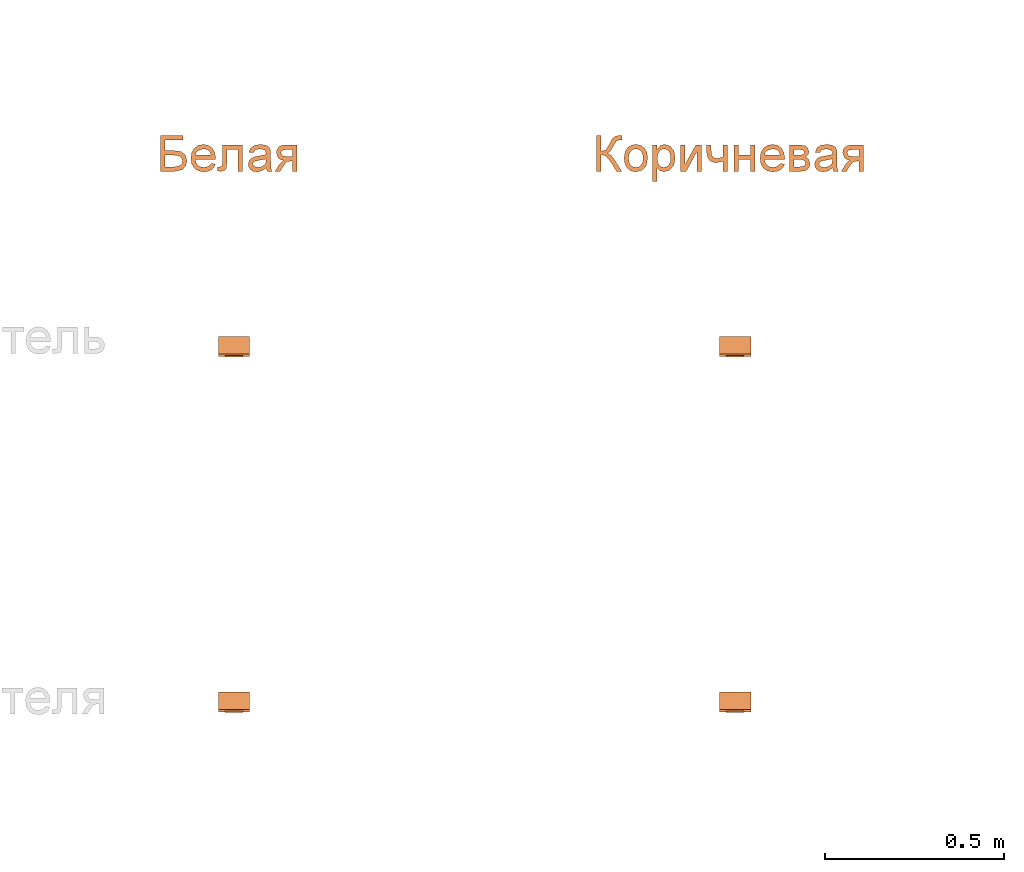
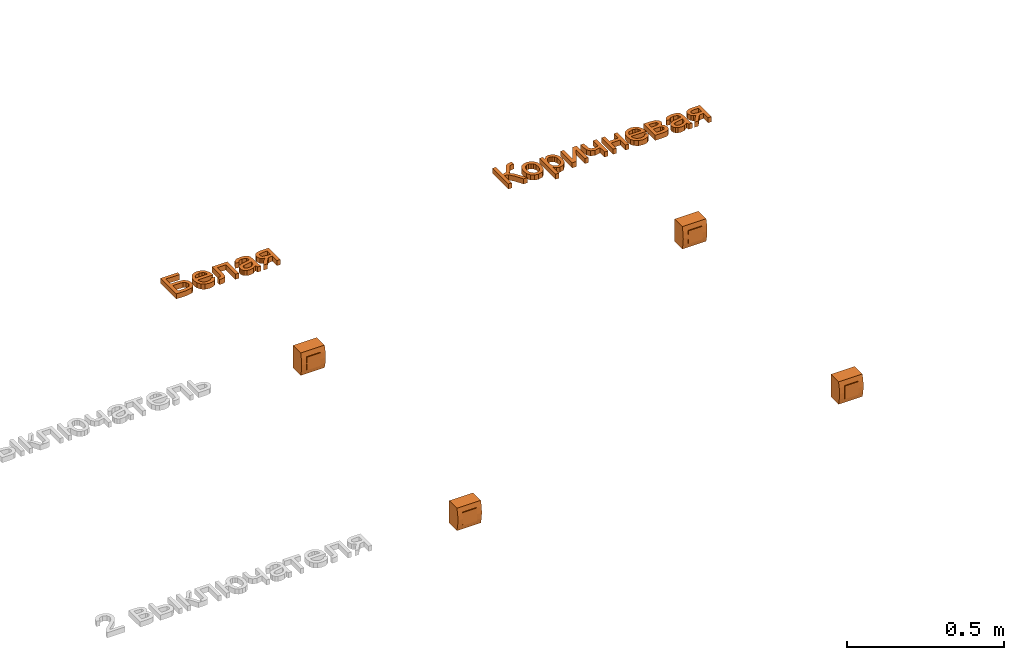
# One storey, part 63 of 87: 6 proxies.
"""IFC2X3 building model written with IfcOpenShell, lengths in millimetres."""

from ifc_helpers import new_model, entity, si_unit, converted_unit, derived_unit, direction, frame, frame_2d, origin, place, context, subcontext, project, spatial, polyline, circle_curve, parameter, trimmed, segment, composite_curve, rectangle, outline, extrude, source, transform, mapped, material, type_object, type_shapes, element, save


model = new_model("IFC2X3")

# Units and contexts
model_context = context("Model", 3, precision=0.01, world=origin(), true_north=direction((6.12303176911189e-17, 1.0)))
body_context = subcontext(model_context, "Body", "Model", "MODEL_VIEW")
ifc_project = project(units=[si_unit("LENGTHUNIT", "METRE", prefix="MILLI"), si_unit("AREAUNIT", "SQUARE_METRE"), si_unit("VOLUMEUNIT", "CUBIC_METRE"), converted_unit("PLANEANGLEUNIT", "DEGREE", entity("IfcRatioMeasure", 0.0174532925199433), si_unit("PLANEANGLEUNIT", "RADIAN"), dimensions=[0, 0, 0, 0, 0, 0, 0]), si_unit("MASSUNIT", "GRAM", prefix="KILO"), derived_unit("MASSDENSITYUNIT", [(si_unit("MASSUNIT", "GRAM", prefix="KILO"), 1), (si_unit("LENGTHUNIT", "METRE"), -3)]), si_unit("TIMEUNIT", "SECOND"), si_unit("FREQUENCYUNIT", "HERTZ"), si_unit("THERMODYNAMICTEMPERATUREUNIT", "DEGREE_CELSIUS"), derived_unit("THERMALTRANSMITTANCEUNIT", [(si_unit("MASSUNIT", "GRAM", prefix="KILO"), 1), (si_unit("THERMODYNAMICTEMPERATUREUNIT", "KELVIN"), -1), (si_unit("TIMEUNIT", "SECOND"), -3)]), derived_unit("VOLUMETRICFLOWRATEUNIT", [(si_unit("LENGTHUNIT", "METRE"), 3), (si_unit("TIMEUNIT", "SECOND"), -1)]), si_unit("ELECTRICCURRENTUNIT", "AMPERE"), si_unit("ELECTRICVOLTAGEUNIT", "VOLT"), si_unit("POWERUNIT", "WATT"), si_unit("FORCEUNIT", "NEWTON", prefix="KILO"), si_unit("ILLUMINANCEUNIT", "LUX"), si_unit("LUMINOUSFLUXUNIT", "LUMEN"), si_unit("LUMINOUSINTENSITYUNIT", "CANDELA"), derived_unit("USERDEFINED", [(si_unit("MASSUNIT", "GRAM", prefix="KILO"), -1), (si_unit("LENGTHUNIT", "METRE"), -2), (si_unit("TIMEUNIT", "SECOND"), 3), (si_unit("LUMINOUSFLUXUNIT", "LUMEN"), 1)]), derived_unit("LINEARVELOCITYUNIT", [(si_unit("LENGTHUNIT", "METRE"), 1), (si_unit("TIMEUNIT", "SECOND"), -1)]), si_unit("PRESSUREUNIT", "PASCAL"), derived_unit("USERDEFINED", [(si_unit("LENGTHUNIT", "METRE"), -2), (si_unit("MASSUNIT", "GRAM", prefix="KILO"), 1), (si_unit("TIMEUNIT", "SECOND"), -2)])], contexts=[model_context])

# Site, building, storey
site_placement = place(None, origin())
site = spatial("IfcSite", under=ifc_project, at=site_placement, Name="Default", CompositionType="ELEMENT")
building_placement = place(site_placement, origin())
building = spatial("IfcBuilding", under=site, at=building_placement, Name="Наименование здания", CompositionType="ELEMENT")
storey_placement = place(building_placement, origin())
storey = spatial("IfcBuildingStorey", under=building, at=storey_placement, Name="Этаж 01", CompositionType="ELEMENT", Elevation=0.0)

# Proxies
ifc_material_1 = material(Name="DKC_Пластик_Коричневый")
building_element_proxy_type_1 = type_object("IfcBuildingElementProxyType", Name="Коричневая", PredefinedType="NOTDEFINED", material=ifc_material_1)
shared_shape_1 = source(origin(), body_context, "Body", "SweptSolid", [
    extrude(rectangle(XDim=50.4, YDim=7.79362973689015, at=frame_2d((0.0, 4.21884749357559e-15), x_axis=(1.0, 0.0))), frame((0.0, -52.6531851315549, -25.2), z_axis=(0.0, 0.0, 1.0), x_axis=(-1.0, 0.0, 0.0)), (0.0, 0.0, 1.0), 50.4),
    extrude(outline(composite_curve([segment(polyline([(-43.5500000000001, -24.3781851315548), (43.5500000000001, -24.3781851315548)]), True, "CONTINUOUS"), segment(polyline([(43.5500000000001, -24.3781851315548), (43.5499999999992, 24.3781851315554)]), True, "CONTINUOUS"), segment(trimmed(circle_curve(frame_2d((0.0, -117.269759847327), x_axis=(0.0, -1.0)), 148.191574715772), [parameter(162.90982899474)], [parameter(197.09017100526)], True, "PARAMETER"), True, "CONTINUOUS"), segment(polyline([(-43.5500000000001, 24.3781851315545), (-43.5500000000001, -24.3781851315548)]), True, "CONTINUOUS")], self_intersect=False)), frame((-43.85, -24.3781851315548, 0.0), z_axis=(1.0, 0.0, 0.0), x_axis=(0.0, 0.0, 1.0)), (0.0, 0.0, 1.0), 87.7),
])
type_shapes(building_element_proxy_type_1, [shared_shape_1])
proxy_1_placement = place(storey_placement, frame((61127.9064877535, -4692.4294884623, 0.0)))
element("IfcBuildingElementProxy", 1, at=proxy_1_placement, inside=storey, type_object=building_element_proxy_type_1, material=ifc_material_1, Name="КНС_КоробкаВСбореСВыключателями_ILF_DKC:Коричневая", ObjectType="Коричневая", context=body_context, shape_type="MappedRepresentation", body=[
    mapped(shared_shape_1, transform((0.0, 0.0, 0.0), scale=1.0)),
])
ifc_material_2 = material(Name="DKC_Пластик_Белый")
building_element_proxy_type_2 = type_object("IfcBuildingElementProxyType", Name="Белая", PredefinedType="NOTDEFINED", material=ifc_material_2)
shared_shape_2 = source(origin(), body_context, "Body", "SweptSolid", [
    extrude(rectangle(XDim=50.4, YDim=7.79362973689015, at=frame_2d((0.0, 4.21884749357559e-15), x_axis=(1.0, 0.0))), frame((0.0, -52.6531851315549, -25.2), z_axis=(0.0, 0.0, 1.0), x_axis=(-1.0, 0.0, 0.0)), (0.0, 0.0, 1.0), 50.4),
    extrude(outline(composite_curve([segment(polyline([(-43.5500000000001, -24.3781851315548), (43.5500000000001, -24.3781851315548)]), True, "CONTINUOUS"), segment(polyline([(43.5500000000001, -24.3781851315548), (43.5499999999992, 24.3781851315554)]), True, "CONTINUOUS"), segment(trimmed(circle_curve(frame_2d((0.0, -117.269759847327), x_axis=(0.0, -1.0)), 148.191574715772), [parameter(162.90982899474)], [parameter(197.09017100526)], True, "PARAMETER"), True, "CONTINUOUS"), segment(polyline([(-43.5500000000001, 24.3781851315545), (-43.5500000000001, -24.3781851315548)]), True, "CONTINUOUS")], self_intersect=False)), frame((-43.85, -24.3781851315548, 0.0), z_axis=(1.0, 0.0, 0.0), x_axis=(0.0, 0.0, 1.0)), (0.0, 0.0, 1.0), 87.7),
])
type_shapes(building_element_proxy_type_2, [shared_shape_2])
proxy_2_placement = place(storey_placement, frame((59727.9064877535, -4692.42948846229, 0.0)))
element("IfcBuildingElementProxy", 2, at=proxy_2_placement, inside=storey, type_object=building_element_proxy_type_2, material=ifc_material_2, Name="КНС_КоробкаВСбореСВыключателями_ILF_DKC:Белая", ObjectType="Белая", context=body_context, shape_type="MappedRepresentation", body=[
    mapped(shared_shape_2, transform((0.0, 0.0, 0.0), scale=1.0)),
])
building_element_proxy_type_3 = type_object("IfcBuildingElementProxyType", Name="Коричневая", PredefinedType="NOTDEFINED", material=ifc_material_1)
shared_shape_3 = source(origin(), body_context, "Body", "SweptSolid", [
    extrude(rectangle(XDim=50.4, YDim=7.79362973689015, at=frame_2d((0.0, 4.21884749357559e-15), x_axis=(1.0, 0.0))), frame((0.0, -52.6531851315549, -25.2), z_axis=(0.0, 0.0, 1.0), x_axis=(-1.0, 0.0, 0.0)), (0.0, 0.0, 1.0), 50.4),
    extrude(outline(composite_curve([segment(polyline([(-43.5500000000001, -24.3781851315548), (43.5500000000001, -24.3781851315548)]), True, "CONTINUOUS"), segment(polyline([(43.5500000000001, -24.3781851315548), (43.5499999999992, 24.3781851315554)]), True, "CONTINUOUS"), segment(trimmed(circle_curve(frame_2d((0.0, -117.269759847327), x_axis=(0.0, -1.0)), 148.191574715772), [parameter(162.90982899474)], [parameter(197.09017100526)], True, "PARAMETER"), True, "CONTINUOUS"), segment(polyline([(-43.5500000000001, 24.3781851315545), (-43.5500000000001, -24.3781851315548)]), True, "CONTINUOUS")], self_intersect=False)), frame((-43.85, -24.3781851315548, 0.0), z_axis=(1.0, 0.0, 0.0), x_axis=(0.0, 0.0, 1.0)), (0.0, 0.0, 1.0), 87.7),
])
type_shapes(building_element_proxy_type_3, [shared_shape_3])
proxy_3_placement = place(storey_placement, frame((61127.9064877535, -3699.50593008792, 0.0)))
element("IfcBuildingElementProxy", 3, at=proxy_3_placement, inside=storey, type_object=building_element_proxy_type_3, material=ifc_material_1, Name="КНС_КоробкаВСбореСВыключателями_ILF_DKC:Коричневая", ObjectType="Коричневая", context=body_context, shape_type="MappedRepresentation", body=[
    mapped(shared_shape_3, transform((0.0, 0.0, 0.0), scale=1.0)),
])
building_element_proxy_type_4 = type_object("IfcBuildingElementProxyType", Name="Белая", PredefinedType="NOTDEFINED", material=ifc_material_2)
shared_shape_4 = source(origin(), body_context, "Body", "SweptSolid", [
    extrude(rectangle(XDim=50.4, YDim=7.79362973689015, at=frame_2d((0.0, 4.21884749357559e-15), x_axis=(1.0, 0.0))), frame((0.0, -52.6531851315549, -25.2), z_axis=(0.0, 0.0, 1.0), x_axis=(-1.0, 0.0, 0.0)), (0.0, 0.0, 1.0), 50.4),
    extrude(outline(composite_curve([segment(polyline([(-43.5500000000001, -24.3781851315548), (43.5500000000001, -24.3781851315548)]), True, "CONTINUOUS"), segment(polyline([(43.5500000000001, -24.3781851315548), (43.5499999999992, 24.3781851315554)]), True, "CONTINUOUS"), segment(trimmed(circle_curve(frame_2d((0.0, -117.269759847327), x_axis=(0.0, -1.0)), 148.191574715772), [parameter(162.90982899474)], [parameter(197.09017100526)], True, "PARAMETER"), True, "CONTINUOUS"), segment(polyline([(-43.5500000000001, 24.3781851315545), (-43.5500000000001, -24.3781851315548)]), True, "CONTINUOUS")], self_intersect=False)), frame((-43.85, -24.3781851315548, 0.0), z_axis=(1.0, 0.0, 0.0), x_axis=(0.0, 0.0, 1.0)), (0.0, 0.0, 1.0), 87.7),
])
type_shapes(building_element_proxy_type_4, [shared_shape_4])
proxy_4_placement = place(storey_placement, frame((59727.9064877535, -3699.50593008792, 0.0)))
element("IfcBuildingElementProxy", 4, at=proxy_4_placement, inside=storey, type_object=building_element_proxy_type_4, material=ifc_material_2, Name="КНС_КоробкаВСбореСВыключателями_ILF_DKC:Белая", ObjectType="Белая", context=body_context, shape_type="MappedRepresentation", body=[
    mapped(shared_shape_4, transform((0.0, 0.0, 0.0), scale=1.0)),
])
proxy_5_placement = place(storey_placement, origin())
element("IfcBuildingElementProxy", 5, at=proxy_5_placement, inside=storey, Name="Текст модели:100 мм Arial", ObjectType="Текст модели:100 мм Arial", context=body_context, shape_type="SweptSolid", body=[
    extrude(outline(polyline([(-50.9950475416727, -42.7620371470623), (49.4612626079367, -42.7620371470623), (49.4612626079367, -4.42873324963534), (45.2428823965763, 17.8649156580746), (34.3658380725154, 27.7118903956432), (20.0552284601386, 31.0105656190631), (3.57411507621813, 26.3752524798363), (-6.06439319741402, 14.0389429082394), (-8.61504169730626, -6.68507615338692), (-8.61504169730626, -30.2049983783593), (-38.4380087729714, -30.2049983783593), (-38.4380087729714, 20.0231566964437), (-50.9950475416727, 20.0231566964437), (-50.9950475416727, -42.7620371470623)]), holes=[polyline([(36.9042238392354, -30.2049983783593), (3.94199707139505, -30.2049983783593), (3.94199707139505, -12.2523570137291), (5.24184678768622, 6.66904027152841), (10.4902965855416, 15.3387926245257), (20.3250085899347, 18.4535268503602), (27.5784152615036, 17.0923634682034), (32.7594200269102, 13.0088733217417), (36.9042238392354, -3.30056179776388), (36.9042238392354, -30.2049983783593)])]), frame((59565.51887875, -3188.36144630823, 0.0), z_axis=(0.0, 0.0, 1.0), x_axis=(0.0, -1.0, 0.0)), (0.0, 0.0, 1.0), 20.0),
    extrude(outline(polyline([(-8.10128238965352, -20.3751729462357), (-15.5352214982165, -30.3140016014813), (-5.78400372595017, -33.5775071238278), (4.12185089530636, -33.3132173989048), (13.877616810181, -29.4480778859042), (23.1785684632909, -21.9090340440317), (31.6380426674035, -9.59237957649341), (34.1620486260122, 3.74135328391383), (30.6040508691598, 17.244220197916), (20.817513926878, 30.0682768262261), (7.27698270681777, 39.7846728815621), (-6.66179525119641, 43.1117813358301), (-19.9642596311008, 40.4221234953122), (-31.5958501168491, 32.0882206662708), (-39.2435519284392, 20.5090048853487), (-41.3106827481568, 7.34319797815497), (-37.437370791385, -6.34962495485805), (-27.2637442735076, -19.5098888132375), (-24.7804584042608, -21.8106804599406), (14.4643272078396, 18.7422646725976), (19.7071986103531, 10.6437992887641), (21.1614672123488, 2.21005051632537), (19.1472085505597, -5.98136753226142), (13.9844981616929, -13.3528407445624), (3.53684605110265, -20.3751729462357), (-8.10128238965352, -20.3751729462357)]), holes=[polyline([(5.44081225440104, 27.4746984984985), (-25.12270613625, -4.10760383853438), (-29.8038819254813, 7.41909510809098), (-27.8851342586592, 15.7498710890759), (-22.5382240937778, 23.3910349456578), (-8.40970331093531, 31.2368652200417), (-1.08072680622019, 30.9147288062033), (5.44081225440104, 27.4746984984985)])]), frame((59643.6009266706, -3207.50015809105, 0.0), z_axis=(0.0, 0.0, -1.0), x_axis=(-0.69542142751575, -0.718602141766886, 0.0)), (0.0, 0.0, -1.0), 20.0),
    extrude(outline(polyline([(-49.368997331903, 12.5447760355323), (-49.368997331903, -43.9618984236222), (24.3300290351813, -43.9618984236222), (24.3300290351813, -31.4048596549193), (-36.8119585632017, -31.4048596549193), (-36.8119585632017, -0.0122627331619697), (-1.61791435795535, -0.0122627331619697), (14.617944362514, 0.833865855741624), (21.4728122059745, 5.48144172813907), (24.4036054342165, 16.4688506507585), (23.7659433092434, 26.6714446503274), (11.8465666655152, 26.6714446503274), (11.8465666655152, 21.0551128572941), (11.074014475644, 15.3774673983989), (8.62146784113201, 13.1088617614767), (-2.32915288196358, 12.5447760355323), (-49.368997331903, 12.5447760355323)])), frame((59707.9609007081, -3213.41910348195, 0.0), z_axis=(0.0, 0.0, -1.0), x_axis=(0.0, -1.0, 0.0)), (0.0, 0.0, -1.0), 20.0),
    extrude(outline(polyline([(32.0508237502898, 7.88266535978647), (41.9780345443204, 7.88266535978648), (45.9489188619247, 19.7953183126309), (35.1414436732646, 20.7608946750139), (14.2438893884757, 27.054591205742), (-0.57712610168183, 31.9949297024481), (-11.1945882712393, 34.8877809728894), (-20.4974705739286, 33.9299602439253), (-28.5323068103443, 27.5470739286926), (-35.4619652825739, 13.8157249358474), (-38.3044049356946, -2.6998964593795), (-34.9462156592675, -15.3493345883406), (-25.0306383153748, -24.3807697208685), (-19.5706723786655, -12.9644773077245), (-25.7868125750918, -4.50695904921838), (-24.0611841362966, 8.30922519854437), (-16.2279943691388, 20.3304570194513), (-6.33956174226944, 20.679460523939), (-3.7104020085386, 19.7255176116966), (-6.50243004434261, -2.3004813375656), (-8.14662433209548, -13.2049019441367), (-7.01817966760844, -22.8490321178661), (-2.17478658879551, -31.1204151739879), (6.48825595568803, -36.5416029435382), (15.0010331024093, -37.7020395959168), (22.949587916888, -35.3200906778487), (29.6378522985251, -29.3899394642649), (34.3697581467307, -19.9057692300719), (36.2737661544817, -6.36055543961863), (32.0508237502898, 7.88266535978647)]), holes=[polyline([(8.22551784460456, 15.8244339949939), (11.5759514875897, 14.630066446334), (20.1614376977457, 9.67421668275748), (24.4696920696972, -0.396473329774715), (23.3024692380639, -13.3987927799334), (17.2491973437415, -22.9498553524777), (9.62153186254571, -24.3497471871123), (5.58084684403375, -21.1932043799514), (3.98706417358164, -15.5044472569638), (5.472267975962, -4.61166010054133), (8.22551784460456, 15.8244339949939)])]), frame((59800.2337393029, -3200.49156631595, 0.0), z_axis=(0.0, 0.0, 1.0), x_axis=(0.316227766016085, -0.948683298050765, 0.0)), (0.0, 0.0, 1.0), 20.0),
    extrude(outline(polyline([(-36.1880068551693, -39.1855638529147), (-3.42198381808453, -39.1855638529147), (7.43666640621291, -37.7079045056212), (15.3890488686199, -33.2749264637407), (20.2634853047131, -26.4691095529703), (21.8882974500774, -17.872933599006), (17.130356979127, -3.64816311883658), (11.0970922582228, 1.34890064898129), (2.51317903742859, 3.97925691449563), (13.2062823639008, 14.4271055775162), (25.8123720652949, 34.5870389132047), (11.2932959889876, 34.5870389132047), (1.28690572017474, 18.6454857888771), (-7.46868576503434, 7.92785699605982), (-16.7883629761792, 6.33370168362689), (-23.6309680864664, 6.33370168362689), (-23.6309680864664, 34.5870389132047), (-36.1880068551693, 34.5870389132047), (-36.1880068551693, -39.1855638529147)]), holes=[polyline([(-23.6309680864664, -26.6285250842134), (-23.6309680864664, -6.22333708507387), (-10.7796237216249, -6.22333708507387), (4.90441200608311, -8.81077378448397), (9.33125868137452, -16.9164404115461), (6.32688905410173, -23.7222573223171), (-7.07627830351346, -26.6285250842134), (-23.6309680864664, -26.6285250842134)])]), frame((59867.988887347, -3203.23567000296, 0.0), z_axis=(0.0, 0.0, 1.0), x_axis=(-1.0, 0.0, 0.0)), (0.0, 0.0, 1.0), 20.0),
])
proxy_6_placement = place(storey_placement, origin())
element("IfcBuildingElementProxy", 6, at=proxy_6_placement, inside=storey, Name="Текст модели:100 мм Arial", ObjectType="Текст модели:100 мм Arial", context=body_context, shape_type="SweptSolid", body=[
    extrude(outline(polyline([(-40.1432833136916, -39.8663907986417), (60.3130268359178, -39.8663907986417), (60.3130268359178, -27.3093520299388), (13.2241314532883, -27.3093520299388), (17.2340452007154, -14.2250157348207), (32.0106386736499, -1.65571423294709), (60.3130268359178, 16.1988252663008), (60.3130268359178, 30.766952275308), (26.8112398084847, 9.65052575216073), (14.9777022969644, 0.0917252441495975), (9.3000568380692, -9.60196532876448), (4.10065797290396, -0.932212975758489), (-24.5696121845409, 15.414010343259), (-27.5862445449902, 25.2241968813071), (-27.4390917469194, 30.766952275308), (-39.9961305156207, 30.766952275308), (-40.1432833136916, 22.5263955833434), (-37.3228546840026, 11.305994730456), (-30.3698849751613, 3.45784550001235), (-16.3290554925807, -3.47059874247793), (0.483151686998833, -13.2685225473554), (3.80635237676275, -27.3093520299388), (-40.1432833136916, -27.3093520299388), (-40.1432833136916, -39.8663907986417)])), frame((60780.5461702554, -3177.50968208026, 0.0), z_axis=(0.0, 0.0, 1.0), x_axis=(0.0, -1.0, 0.0)), (0.0, 0.0, 1.0), 20.0),
    extrude(outline(polyline([(-2.34029740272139, -31.698490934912), (14.2731811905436, -31.698490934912), (27.186952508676, -26.5873672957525), (35.9909592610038, -17.1811275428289), (40.2751441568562, -4.29577920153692), (38.149171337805, 13.169045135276), (27.2514955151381, 26.6485362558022), (5.6779791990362, 33.7446283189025), (-10.1280544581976, 33.6081083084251), (-22.805938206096, 28.3900569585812), (-31.6389568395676, 18.9754531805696), (-35.9103951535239, 6.24927588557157), (-35.5406401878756, -5.97109031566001), (-30.8535887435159, -16.7835237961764), (-19.5870121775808, -26.5692340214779), (-2.34029740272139, -31.698490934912)]), holes=[polyline([(-0.642949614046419, -19.2566729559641), (-11.694809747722, -16.2599663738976), (-19.0989004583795, -10.8341828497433), (-22.982263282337, -3.67356758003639), (-23.4719397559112, 4.52763423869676), (-20.7783225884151, 12.2046648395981), (-15.0781786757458, 18.0357050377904), (-6.56600936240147, 21.2863283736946), (4.5636840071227, 21.2221083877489), (15.8675929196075, 18.1905150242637), (23.3961896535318, 12.7474982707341), (27.3267847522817, 5.59272509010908), (27.836688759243, -2.57413755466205), (25.1317228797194, -10.3331599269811), (19.4311586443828, -16.1672368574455), (10.8134498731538, -19.3753979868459), (-0.642949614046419, -19.2566729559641)])]), frame((60849.3116538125, -3198.90856022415, 0.0), z_axis=(0.0, 0.0, 1.0), x_axis=(0.13710570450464, -0.99055642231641, 0.0)), (0.0, 0.0, 1.0), 20.0),
    extrude(outline(polyline([(-28.8983569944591, -61.2335493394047), (-16.3413182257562, -61.2335493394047), (-16.3413182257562, -23.1700255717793), (-8.38280439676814, -31.324743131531), (2.54329085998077, -34.5498419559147), (18.4235303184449, -29.7305878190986), (29.9259740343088, -15.8736993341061), (33.8868368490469, 4.4701749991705), (30.3796951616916, 23.82076794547), (19.9808974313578, 37.5059781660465), (4.06386977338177, 42.3620205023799), (-7.6593031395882, 38.8916670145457), (-16.3413182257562, 28.4806065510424), (-16.3413182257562, 40.7923906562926), (-28.8983569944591, 40.7923906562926), (-28.8983569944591, -61.2335493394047)]), holes=[polyline([(-16.3413182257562, 3.3174780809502), (-14.8912500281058, 14.7064915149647), (-10.5410454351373, 23.0236902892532), (-4.30851130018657, 28.1096588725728), (2.78854552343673, 29.8049817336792), (9.85801119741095, 28.2108264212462), (15.8606190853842, 23.428360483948), (19.9625033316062, 15.4453211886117), (21.329798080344, 4.24944580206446), (19.9287808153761, -7.43080754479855), (15.7257290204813, -15.5916564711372), (9.56063991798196, -20.3925165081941), (2.27351073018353, -21.9928031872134), (-4.89712249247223, -20.4476988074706), (-10.908927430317, -15.8123856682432), (-14.9832205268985, -7.93971097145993), (-16.3413182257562, 3.3174780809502)])]), frame((60926.5411210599, -3204.84249680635, 0.0)), (0.0, 0.0, 1.0), 20.0),
    extrude(outline(polyline([(-36.9206370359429, -29.8425874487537), (36.8519657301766, -29.8425874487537), (36.8519657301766, -13.4105249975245), (-19.0660975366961, 17.2463079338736), (36.8519657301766, 17.2463079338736), (36.8519657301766, 29.8033467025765), (-36.9206370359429, 29.8033467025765), (-36.9206370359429, 13.5674879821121), (19.3407827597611, -17.2855486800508), (-36.9206370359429, -17.2855486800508), (-36.9206370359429, -29.8425874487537)])), frame((61004.3972139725, -3200.970743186, 0.0), z_axis=(0.0, 0.0, 1.0), x_axis=(0.0, -1.0, 0.0)), (0.0, 0.0, 1.0), 20.0),
    extrude(outline(polyline([(-30.76183258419, -26.323489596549), (-10.4056955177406, -26.323489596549), (3.94170229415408, -24.1161976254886), (14.9658994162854, -15.7407508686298), (19.4663224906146, -1.50371765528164), (15.1498404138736, 19.1957759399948), (43.0107701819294, 19.1957759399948), (43.0107701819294, 31.7528147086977), (-30.76183258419, 31.7528147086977), (-30.76183258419, 19.1957759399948), (3.10783643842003, 19.1957759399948), (6.90928372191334, 1.85627123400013), (3.84360042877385, -7.85581343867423), (-3.34236121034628, -12.748643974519), (-16.6106385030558, -13.7664508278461), (-30.76183258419, -13.7664508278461), (-30.76183258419, -26.323489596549)])), frame((61074.6507188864, -3194.81193873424, 0.0), z_axis=(0.0, 0.0, 1.0), x_axis=(0.0, -1.0, 0.0)), (0.0, 0.0, 1.0), 20.0),
    extrude(outline(polyline([(-36.1014864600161, -29.0381521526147), (37.6711163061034, -29.0381521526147), (37.6711163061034, -16.4811133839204), (4.70888953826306, -16.4811133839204), (4.70888953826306, 16.4811133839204), (37.6711163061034, 16.4811133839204), (37.6711163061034, 29.0381521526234), (-36.1014864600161, 29.0381521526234), (-36.1014864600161, 16.4811133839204), (-7.84814923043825, 16.4811133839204), (-7.84814923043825, -16.4811133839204), (-36.1014864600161, -16.4811133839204), (-36.1014864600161, -29.0381521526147)])), frame((61154.2772439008, -3200.15159261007, 0.0), z_axis=(0.0, 0.0, 1.0), x_axis=(0.0, -1.0, 0.0)), (0.0, 0.0, 1.0), 20.0),
    extrude(outline(polyline([(-8.10128238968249, -20.3751729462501), (-15.5352214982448, -30.3140016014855), (-5.7840037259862, -33.5775071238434), (4.12185089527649, -33.3132173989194), (13.8776168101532, -29.4480778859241), (23.1785684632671, -21.9090340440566), (31.6380426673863, -9.59237957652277), (34.1620486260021, 3.74135328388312), (30.604050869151, 17.244220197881), (20.817513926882, 30.0682768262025), (7.276982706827, 39.7846728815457), (-6.6617952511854, 43.1117813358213), (-19.9642596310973, 40.4221234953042), (-31.595850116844, 32.0882206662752), (-39.2435519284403, 20.5090048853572), (-41.3106827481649, 7.3431979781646), (-37.4373707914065, -6.34962495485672), (-27.2637442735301, -19.5098888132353), (-24.7804584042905, -21.810680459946), (14.4643272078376, 18.7422646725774), (19.7071986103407, 10.6437992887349), (21.161467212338, 2.21005051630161), (19.1472085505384, -5.98136753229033), (13.9844981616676, -13.3528407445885), (3.5368460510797, -20.3751729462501), (-8.10128238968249, -20.3751729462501)]), holes=[polyline([(5.44081225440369, 27.4746984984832), (-25.1227061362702, -4.10760383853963), (-29.8038819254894, 7.41909510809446), (-27.8851342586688, 15.7498710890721), (-22.5382240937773, 23.3910349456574), (-8.40970331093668, 31.2368652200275), (-1.08072680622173, 30.9147288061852), (5.44081225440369, 27.4746984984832)])]), frame((61233.5261380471, -3207.50015809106, 0.0), z_axis=(0.0, 0.0, -1.0), x_axis=(-0.695421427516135, -0.718602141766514, 0.0)), (0.0, 0.0, -1.0), 20.0),
    extrude(outline(polyline([(-37.9619182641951, -40.7346098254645), (35.8106845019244, -40.7346098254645), (35.8106845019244, -8.82697811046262), (34.4801779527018, 2.14816807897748), (30.4886583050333, 10.1557328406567), (23.7502864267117, 15.214110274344), (14.1792231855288, 17.3416944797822), (2.34568567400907, 13.9817055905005), (-4.4601312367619, 5.54494516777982), (-10.6773369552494, 12.0441937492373), (-19.3961402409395, 14.2024347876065), (-30.1260317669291, 10.6339794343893), (-36.2819238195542, 2.09911714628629), (-37.9619182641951, -13.0698837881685), (-37.9619182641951, -40.7346098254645)]), holes=[polyline([(-9.70858103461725, -28.1775710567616), (-25.4048794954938, -28.1775710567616), (-25.4048794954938, -15.3752776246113), (-23.6635713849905, -2.20510219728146), (-17.5076793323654, 1.64539601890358), (-12.8968916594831, -0.549633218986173), (-10.3462431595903, -5.52830288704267), (-9.70858103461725, -15.7676850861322), (-9.70858103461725, -28.1775710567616)]), polyline([(23.2536457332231, -28.1775710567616), (2.84845773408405, -28.1775710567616), (2.84845773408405, -14.0018515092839), (3.58422172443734, -2.95312892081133), (7.10362614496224, 2.63867740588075), (13.1491535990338, 4.78465571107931), (20.9850400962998, 0.885106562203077), (23.2536457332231, -12.77557819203), (23.2536457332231, -28.1775710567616)])]), frame((61319.7974264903, -3202.01202441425, 0.0), z_axis=(0.0, 0.0, 1.0), x_axis=(0.0, -1.0, 0.0)), (0.0, 0.0, 1.0), 20.0),
    extrude(outline(polyline([(32.0508237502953, 7.88266535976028), (41.9780345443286, 7.88266535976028), (45.9489188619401, 19.7953183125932), (35.1414436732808, 20.7608946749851), (14.2438893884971, 27.0545912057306), (-0.577126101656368, 31.994929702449), (-11.1945882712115, 34.887780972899), (-20.4974705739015, 33.9299602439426), (-28.5323068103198, 27.5470739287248), (-35.4619652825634, 13.8157249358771), (-38.3044049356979, -2.69989645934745), (-34.9462156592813, -15.3493345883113), (-25.030638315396, -24.3807697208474), (-19.5706723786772, -12.9644773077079), (-25.7868125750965, -4.50695904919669), (-24.0611841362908, 8.30922519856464), (-16.227994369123, 20.3304570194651), (-6.33956174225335, 20.6794605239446), (-3.7104020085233, 19.7255176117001), (-6.50243004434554, -2.30048133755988), (-8.14662433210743, -13.2049019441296), (-7.01817966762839, -22.8490321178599), (-2.1747865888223, -31.1204151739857), (6.48825595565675, -36.5416029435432), (15.0010331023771, -37.7020395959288), (22.9495879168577, -35.3200906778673), (29.6378522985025, -29.3899394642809), (34.3697581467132, -19.9057692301), (36.2737661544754, -6.36055543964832), (32.0508237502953, 7.88266535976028)]), holes=[polyline([(8.22551784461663, 15.8244339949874), (11.5759514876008, 14.6300664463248), (20.1614376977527, 9.67421668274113), (24.4696920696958, -0.396473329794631), (23.3024692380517, -13.3987927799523), (17.2491973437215, -22.9498553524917), (9.62153186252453, -24.3497471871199), (5.58084684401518, -21.1932043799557), (3.98706417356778, -15.5044472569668), (5.47226797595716, -4.61166010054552), (8.22551784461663, 15.8244339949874)])]), frame((61382.3108014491, -3200.49156631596, 0.0), z_axis=(0.0, 0.0, 1.0), x_axis=(0.316227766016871, -0.948683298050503, 0.0)), (0.0, 0.0, 1.0), 20.0),
    extrude(outline(polyline([(-36.1880068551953, -39.1855638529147), (-3.42198381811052, -39.1855638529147), (7.43666640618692, -37.7079045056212), (15.389048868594, -33.2749264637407), (20.2634853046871, -26.4691095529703), (21.8882974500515, -17.872933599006), (17.1303569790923, -3.64816311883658), (11.0970922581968, 1.34890064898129), (2.5131790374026, 3.97925691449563), (13.2062823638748, 14.4271055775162), (25.812372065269, 34.5870389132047), (11.2932959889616, 34.5870389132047), (1.28690572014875, 18.6454857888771), (-7.46868576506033, 7.92785699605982), (-16.7883629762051, 6.33370168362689), (-23.6309680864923, 6.33370168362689), (-23.6309680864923, 34.5870389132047), (-36.1880068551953, 34.5870389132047), (-36.1880068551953, -39.1855638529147)]), holes=[polyline([(-23.6309680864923, -26.6285250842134), (-23.6309680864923, -6.22333708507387), (-10.7796237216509, -6.22333708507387), (4.90441200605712, -8.81077378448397), (9.33125868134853, -16.9164404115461), (6.32688905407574, -23.7222573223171), (-7.07627830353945, -26.6285250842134), (-23.6309680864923, -26.6285250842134)])]), frame((61450.0659494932, -3203.23567000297, 0.0), z_axis=(0.0, 0.0, 1.0), x_axis=(-1.0, 0.0, 0.0)), (0.0, 0.0, 1.0), 20.0),
])

save(model, "model.ifc")
